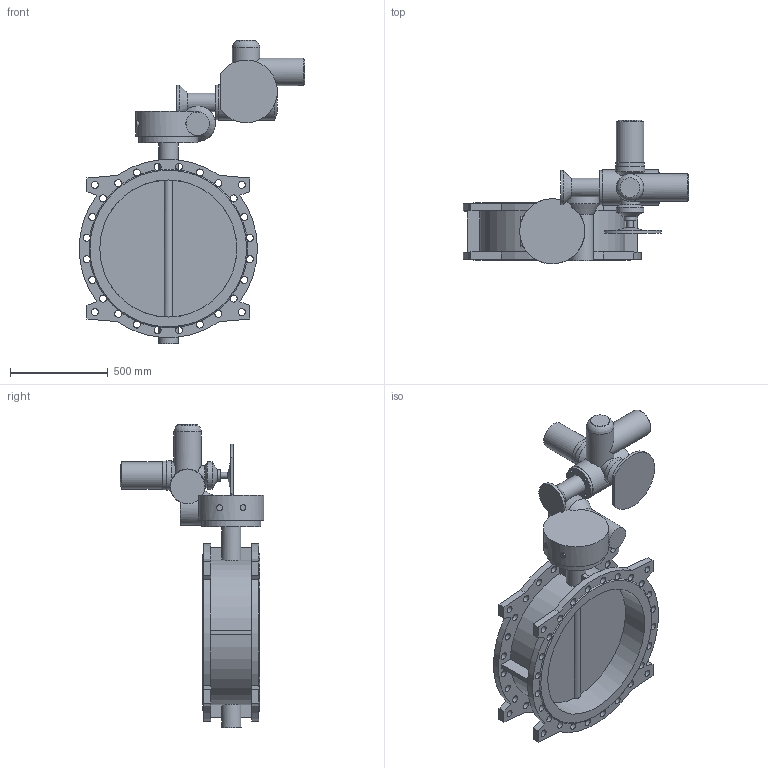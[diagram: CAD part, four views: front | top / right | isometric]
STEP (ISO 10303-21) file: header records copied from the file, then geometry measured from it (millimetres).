
FILE_DESCRIPTION(('STEP AP203'), '1');
FILE_NAME('Çàòâîð 021F.Y DN700 +ðåäóêòîð+ÌÒ903.À30-34', '', ('UNSPECIFIED'), ('UNSPECIFIED'), 'ASCON STEP Converter 1.6', 'ASCON Math Kernel', '');
FILE_SCHEMA(('CONFIG_CONTROL_DESIGN'));
Length unit declared in the file: millimetre
Bounding box: 1152 x 732.73 x 1547 mm (x, y, z)
Volume: 81522849.8 mm3; surface area: 4805212.5 mm2
Topology: 1 solids, 1 shells, 233 faces, 716 edges, 473 vertices
Faces by surface type: cylinder 122, plane 97, cone 13, torus 1
Full cylindrical faces by diameter (mm): 14 x12, 18 x12, 30 x2, 32 x1, 36 x56, 60 x1, 95 x1, 100 x3, 120 x1, 140 x4, 147 x1, 151 x1, 175 x1, 180 x2, 300 x1, 700 x2
Entity records: 15830 total; most frequent: CARTESIAN_POINT 7756, DIRECTION 1234, ORIENTED_EDGE 1206, EDGE_CURVE 603, AXIS2_PLACEMENT_3D 539, VERTEX_POINT 473, EDGE_LOOP 448, CIRCLE 305
